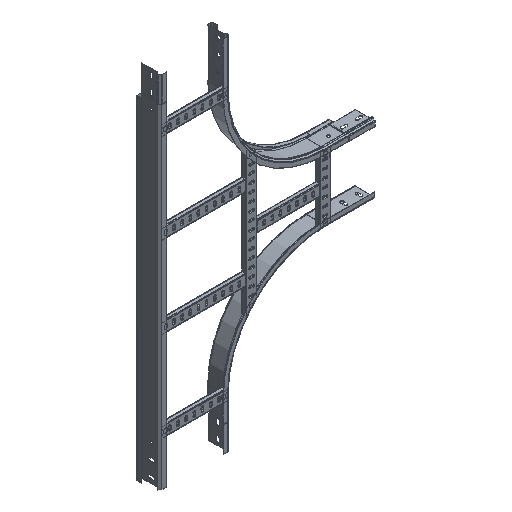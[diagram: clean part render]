
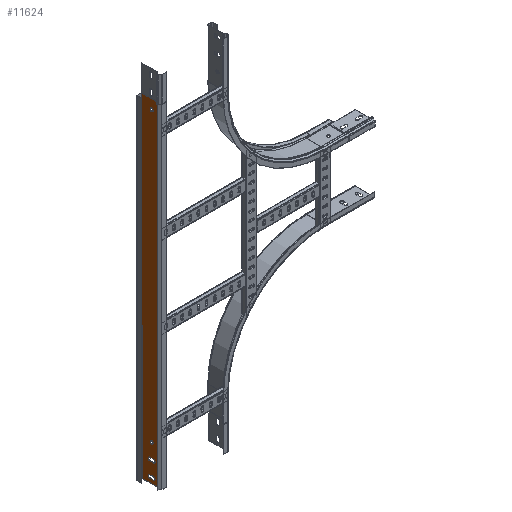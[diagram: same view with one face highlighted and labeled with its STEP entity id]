
A CAD part, isometric view. The second image highlights one B-rep face of the part: STEP entity #11624.
In plain terms, the highlighted planar face has unit normal (-1, 0, 0).
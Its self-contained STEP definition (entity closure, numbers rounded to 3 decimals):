
#84 = DIRECTION ( 'NONE',  ( 0., -1., 0. ) ) ;
#304 = CARTESIAN_POINT ( 'NONE',  ( 0., 35.8, 1007.5 ) ) ;
#337 = VECTOR ( 'NONE', #13078, 1000. ) ;
#451 = DIRECTION ( 'NONE',  ( 0., 0., -1. ) ) ;
#561 = CARTESIAN_POINT ( 'NONE',  ( 0., 0., 1020. ) ) ;
#714 = DIRECTION ( 'NONE',  ( -1., 0., 0. ) ) ;
#750 = VERTEX_POINT ( 'NONE', #9267 ) ;
#894 = VERTEX_POINT ( 'NONE', #8190 ) ;
#1042 = CARTESIAN_POINT ( 'NONE',  ( 0., 30.3, 25.5 ) ) ;
#1231 = CARTESIAN_POINT ( 'NONE',  ( 0., 48.466, 0. ) ) ;
#1344 = CARTESIAN_POINT ( 'NONE',  ( 0., 30.3, 910. ) ) ;
#1472 = DIRECTION ( 'NONE',  ( 0., 0., 1. ) ) ;
#1493 = CARTESIAN_POINT ( 'NONE',  ( 0., 30.3, 34.5 ) ) ;
#1543 = VECTOR ( 'NONE', #14741, 1000. ) ;
#1906 = EDGE_LOOP ( 'NONE', ( #2633, #3105 ) ) ;
#2064 = DIRECTION ( 'NONE',  ( -1., 0., 0. ) ) ;
#2133 = CIRCLE ( 'NONE', #9027, 4.5 ) ;
#2206 = LINE ( 'NONE', #5077, #3306 ) ;
#2323 = DIRECTION ( 'NONE',  ( 0., 0., 1. ) ) ;
#2633 = ORIENTED_EDGE ( 'NONE', *, *, #4339, .F. ) ;
#3043 = VERTEX_POINT ( 'NONE', #1231 ) ;
#3078 = CARTESIAN_POINT ( 'NONE',  ( 0., 24.8, 961.5 ) ) ;
#3105 = ORIENTED_EDGE ( 'NONE', *, *, #10101, .F. ) ;
#3144 = DIRECTION ( 'NONE',  ( -1., 0., 0. ) ) ;
#3154 = VERTEX_POINT ( 'NONE', #4967 ) ;
#3181 = CARTESIAN_POINT ( 'NONE',  ( 0., 24.8, 1007.5 ) ) ;
#3306 = VECTOR ( 'NONE', #14631, 1000. ) ;
#3321 = AXIS2_PLACEMENT_3D ( 'NONE', #4840, #714, #6290 ) ;
#3412 = FACE_BOUND ( 'NONE', #16509, .T. ) ;
#3490 = AXIS2_PLACEMENT_3D ( 'NONE', #1344, #4116, #4211 ) ;
#3586 = EDGE_CURVE ( 'NONE', #11828, #13892, #13474, .T. ) ;
#4116 = DIRECTION ( 'NONE',  ( -1., 0., 0. ) ) ;
#4211 = DIRECTION ( 'NONE',  ( 0., 0., 1. ) ) ;
#4256 = ORIENTED_EDGE ( 'NONE', *, *, #6031, .F. ) ;
#4321 = ORIENTED_EDGE ( 'NONE', *, *, #3586, .F. ) ;
#4339 = EDGE_CURVE ( 'NONE', #14423, #14006, #2133, .T. ) ;
#4369 = AXIS2_PLACEMENT_3D ( 'NONE', #13634, #5710, #1472 ) ;
#4399 = ORIENTED_EDGE ( 'NONE', *, *, #8454, .T. ) ;
#4555 = CARTESIAN_POINT ( 'NONE',  ( 0., 35.8, 998.5 ) ) ;
#4608 = ORIENTED_EDGE ( 'NONE', *, *, #13470, .F. ) ;
#4694 = DIRECTION ( 'NONE',  ( 0., 0., 1. ) ) ;
#4779 = AXIS2_PLACEMENT_3D ( 'NONE', #7043, #9816, #9725 ) ;
#4791 = CARTESIAN_POINT ( 'NONE',  ( 0., 48.466, 1020. ) ) ;
#4840 = CARTESIAN_POINT ( 'NONE',  ( 0., 35.8, 1003. ) ) ;
#4931 = CARTESIAN_POINT ( 'NONE',  ( 0., 0., 1020. ) ) ;
#4967 = CARTESIAN_POINT ( 'NONE',  ( 0., 35.8, 1007.5 ) ) ;
#5077 = CARTESIAN_POINT ( 'NONE',  ( 0., 35.8, 961.5 ) ) ;
#5235 = ORIENTED_EDGE ( 'NONE', *, *, #17473, .F. ) ;
#5361 = CARTESIAN_POINT ( 'NONE',  ( 0., 30.3, 910. ) ) ;
#5456 = EDGE_CURVE ( 'NONE', #12053, #3043, #15640, .T. ) ;
#5524 = VERTEX_POINT ( 'NONE', #14105 ) ;
#5532 = DIRECTION ( 'NONE',  ( 0., 0., 1. ) ) ;
#5710 = DIRECTION ( 'NONE',  ( -1., 0., 0. ) ) ;
#5855 = ORIENTED_EDGE ( 'NONE', *, *, #11431, .F. ) ;
#6031 = EDGE_CURVE ( 'NONE', #750, #9939, #12910, .T. ) ;
#6075 = ORIENTED_EDGE ( 'NONE', *, *, #14830, .F. ) ;
#6216 = VECTOR ( 'NONE', #9991, 1000. ) ;
#6290 = DIRECTION ( 'NONE',  ( 0., 0., -1. ) ) ;
#6365 = CARTESIAN_POINT ( 'NONE',  ( 0., 30.3, 914.5 ) ) ;
#6646 = VERTEX_POINT ( 'NONE', #1042 ) ;
#6794 = CARTESIAN_POINT ( 'NONE',  ( 0., 35.8, 961.5 ) ) ;
#6947 = EDGE_CURVE ( 'NONE', #9482, #3154, #15451, .T. ) ;
#7043 = CARTESIAN_POINT ( 'NONE',  ( 0., 30.3, 30. ) ) ;
#7244 = VECTOR ( 'NONE', #13729, 1000. ) ;
#7265 = CARTESIAN_POINT ( 'NONE',  ( 0., 30.3, 30. ) ) ;
#7641 = PLANE ( 'NONE',  #7833 ) ;
#7799 = ORIENTED_EDGE ( 'NONE', *, *, #17286, .F. ) ;
#7833 = AXIS2_PLACEMENT_3D ( 'NONE', #4931, #2064, #2323 ) ;
#7980 = DIRECTION ( 'NONE',  ( -1., 0., 0. ) ) ;
#8190 = CARTESIAN_POINT ( 'NONE',  ( 0., 48.466, 1020. ) ) ;
#8369 = LINE ( 'NONE', #10886, #12436 ) ;
#8454 = EDGE_CURVE ( 'NONE', #894, #3043, #14611, .T. ) ;
#8548 = CARTESIAN_POINT ( 'NONE',  ( 0., 35.8, 957. ) ) ;
#8870 = DIRECTION ( 'NONE',  ( -1., 0., 0. ) ) ;
#9027 = AXIS2_PLACEMENT_3D ( 'NONE', #5361, #7980, #5532 ) ;
#9075 = VERTEX_POINT ( 'NONE', #10217 ) ;
#9267 = CARTESIAN_POINT ( 'NONE',  ( 0., 24.8, 952.5 ) ) ;
#9300 = EDGE_CURVE ( 'NONE', #13892, #9482, #9534, .T. ) ;
#9380 = VERTEX_POINT ( 'NONE', #6794 ) ;
#9482 = VERTEX_POINT ( 'NONE', #3181 ) ;
#9534 = CIRCLE ( 'NONE', #4369, 4.5 ) ;
#9567 = CARTESIAN_POINT ( 'NONE',  ( 0., 0.5, 1020. ) ) ;
#9725 = DIRECTION ( 'NONE',  ( 0., 0., 1. ) ) ;
#9809 = LINE ( 'NONE', #561, #6216 ) ;
#9816 = DIRECTION ( 'NONE',  ( -1., 0., 0. ) ) ;
#9939 = VERTEX_POINT ( 'NONE', #3078 ) ;
#9991 = DIRECTION ( 'NONE',  ( 0., 1., 0. ) ) ;
#10101 = EDGE_CURVE ( 'NONE', #14006, #14423, #15882, .T. ) ;
#10217 = CARTESIAN_POINT ( 'NONE',  ( 0., 0.5, 1020. ) ) ;
#10561 = EDGE_CURVE ( 'NONE', #9075, #12053, #13639, .T. ) ;
#10886 = CARTESIAN_POINT ( 'NONE',  ( 0., 35.8, 952.5 ) ) ;
#11368 = CIRCLE ( 'NONE', #3321, 4.5 ) ;
#11431 = EDGE_CURVE ( 'NONE', #5524, #750, #8369, .T. ) ;
#11581 = CARTESIAN_POINT ( 'NONE',  ( 0., 0.5, 0. ) ) ;
#11624 = ADVANCED_FACE ( 'NONE', ( #3412, #11953, #14487, #16032, #14666 ), #7641, .T. ) ;
#11828 = VERTEX_POINT ( 'NONE', #4555 ) ;
#11909 = ORIENTED_EDGE ( 'NONE', *, *, #15649, .T. ) ;
#11953 = FACE_BOUND ( 'NONE', #1906, .T. ) ;
#12053 = VERTEX_POINT ( 'NONE', #11581 ) ;
#12197 = EDGE_LOOP ( 'NONE', ( #7799, #4608, #4256, #5855 ) ) ;
#12436 = VECTOR ( 'NONE', #84, 1000. ) ;
#12647 = VECTOR ( 'NONE', #16792, 1000. ) ;
#12910 = CIRCLE ( 'NONE', #17787, 4.5 ) ;
#13078 = DIRECTION ( 'NONE',  ( 0., 0., -1. ) ) ;
#13083 = CIRCLE ( 'NONE', #15399, 4.5 ) ;
#13143 = ORIENTED_EDGE ( 'NONE', *, *, #9300, .F. ) ;
#13337 = CARTESIAN_POINT ( 'NONE',  ( 0., 30.3, 905.5 ) ) ;
#13470 = EDGE_CURVE ( 'NONE', #9939, #9380, #2206, .T. ) ;
#13474 = LINE ( 'NONE', #16102, #1543 ) ;
#13634 = CARTESIAN_POINT ( 'NONE',  ( 0., 24.8, 1003. ) ) ;
#13639 = LINE ( 'NONE', #9567, #7244 ) ;
#13729 = DIRECTION ( 'NONE',  ( 0., 0., -1. ) ) ;
#13892 = VERTEX_POINT ( 'NONE', #15794 ) ;
#14006 = VERTEX_POINT ( 'NONE', #13337 ) ;
#14105 = CARTESIAN_POINT ( 'NONE',  ( 0., 35.8, 952.5 ) ) ;
#14192 = DIRECTION ( 'NONE',  ( 0., 1., 0. ) ) ;
#14350 = DIRECTION ( 'NONE',  ( -1., 0., 0. ) ) ;
#14423 = VERTEX_POINT ( 'NONE', #6365 ) ;
#14487 = FACE_BOUND ( 'NONE', #12197, .T. ) ;
#14520 = VERTEX_POINT ( 'NONE', #1493 ) ;
#14552 = EDGE_LOOP ( 'NONE', ( #17752, #15246, #11909, #4399 ) ) ;
#14611 = LINE ( 'NONE', #4791, #337 ) ;
#14631 = DIRECTION ( 'NONE',  ( 0., 1., 0. ) ) ;
#14666 = FACE_OUTER_BOUND ( 'NONE', #14552, .T. ) ;
#14718 = EDGE_CURVE ( 'NONE', #6646, #14520, #14857, .T. ) ;
#14741 = DIRECTION ( 'NONE',  ( 0., -1., 0. ) ) ;
#14812 = EDGE_LOOP ( 'NONE', ( #5235, #15713, #13143, #4321 ) ) ;
#14830 = EDGE_CURVE ( 'NONE', #14520, #6646, #15403, .T. ) ;
#14857 = CIRCLE ( 'NONE', #4779, 4.5 ) ;
#15246 = ORIENTED_EDGE ( 'NONE', *, *, #10561, .F. ) ;
#15256 = ORIENTED_EDGE ( 'NONE', *, *, #14718, .F. ) ;
#15399 = AXIS2_PLACEMENT_3D ( 'NONE', #8548, #3144, #451 ) ;
#15403 = CIRCLE ( 'NONE', #16307, 4.5 ) ;
#15451 = LINE ( 'NONE', #304, #12647 ) ;
#15477 = DIRECTION ( 'NONE',  ( 0., 0., 1. ) ) ;
#15640 = LINE ( 'NONE', #17077, #16933 ) ;
#15649 = EDGE_CURVE ( 'NONE', #9075, #894, #9809, .T. ) ;
#15713 = ORIENTED_EDGE ( 'NONE', *, *, #6947, .F. ) ;
#15794 = CARTESIAN_POINT ( 'NONE',  ( 0., 24.8, 998.5 ) ) ;
#15882 = CIRCLE ( 'NONE', #3490, 4.5 ) ;
#16032 = FACE_BOUND ( 'NONE', #14812, .T. ) ;
#16063 = CARTESIAN_POINT ( 'NONE',  ( 0., 24.8, 957. ) ) ;
#16102 = CARTESIAN_POINT ( 'NONE',  ( 0., 35.8, 998.5 ) ) ;
#16307 = AXIS2_PLACEMENT_3D ( 'NONE', #7265, #8870, #15477 ) ;
#16509 = EDGE_LOOP ( 'NONE', ( #15256, #6075 ) ) ;
#16792 = DIRECTION ( 'NONE',  ( 0., 1., 0. ) ) ;
#16933 = VECTOR ( 'NONE', #14192, 1000. ) ;
#17077 = CARTESIAN_POINT ( 'NONE',  ( 0., 0., 0. ) ) ;
#17286 = EDGE_CURVE ( 'NONE', #9380, #5524, #13083, .T. ) ;
#17473 = EDGE_CURVE ( 'NONE', #3154, #11828, #11368, .T. ) ;
#17752 = ORIENTED_EDGE ( 'NONE', *, *, #5456, .F. ) ;
#17787 = AXIS2_PLACEMENT_3D ( 'NONE', #16063, #14350, #4694 ) ;
